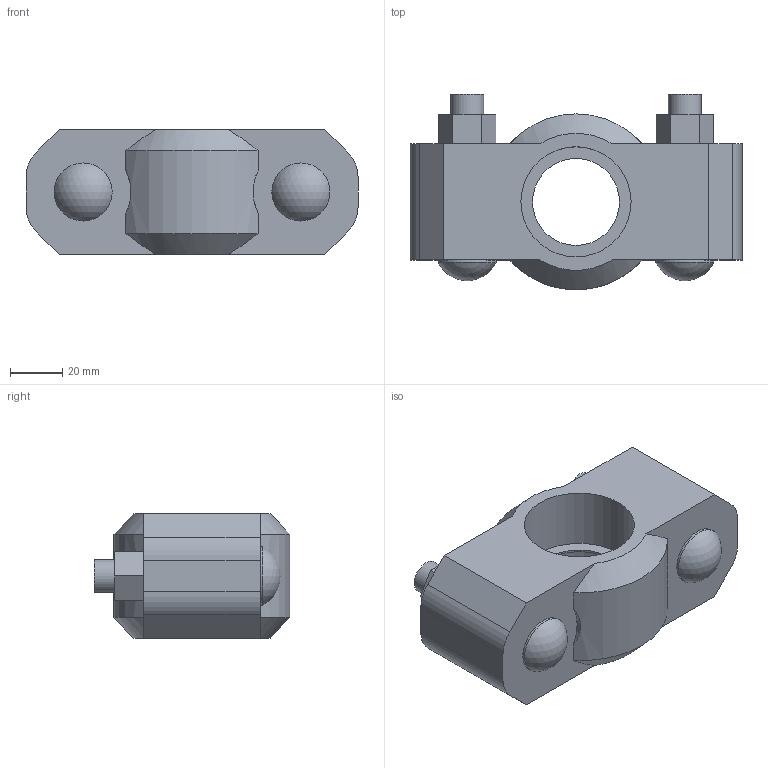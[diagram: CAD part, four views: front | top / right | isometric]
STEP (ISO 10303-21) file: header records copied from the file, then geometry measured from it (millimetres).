
FILE_DESCRIPTION(/* description */ ('Victaulic Standard Flexible Coupling Style 77','CAx-IF Rec.Pracs.---Representation and Presentation of Product Manufacturing Information (PMI)---4.0---2014-10-13'),/* implementation_level */ '2;1');
FILE_NAME(/* name */ 'C:\Users\Vjadhav\Desktop\CAD for Inventor\1\Coupling bolt thickness\77\Victaulic_IPS_Coupling Flexible_Style 77 (OGS)\Victaulic_IPS_Coupling Flexible_Style 77 (OGS)_1.25 (32).stp',/* time_stamp */ '2022-03-24T18:19:44+06:00',/* author */ ('CONSTRUCTION PIPING SERVICES'),/* organization */ ('Victaulic'),/* preprocessor_version */ 'ST-DEVELOPER v17.2',/* originating_system */ 'Autodesk Inventor 2019',/* authorisation */ '');
FILE_SCHEMA (('AP242_MANAGED_MODEL_BASED_3D_ENGINEERING_MIM_LF { 1 0 10303 442 1 1 4 }'));
Length unit declared in the file: inch
Products named in the file (1): 077-01.25
Bounding box: 127 x 74.93 x 47.75 mm (x, y, z)
Volume: 229913.7 mm3; surface area: 41874.2 mm2
Topology: 1 solids, 3 shells, 61 faces, 142 edges, 95 vertices
Faces by surface type: plane 34, cylinder 21, cone 4, sphere 2
Full cylindrical faces by diameter (mm): 12.7 x4, 14.605 x2, 22.225 x2, 33.274 x1, 42.164 x2
Entity records: 1995 total; most frequent: CARTESIAN_POINT 368, DIRECTION 323, ORIENTED_EDGE 284, EDGE_CURVE 142, AXIS2_PLACEMENT_3D 118, VERTEX_POINT 95, LINE 87, VECTOR 87
